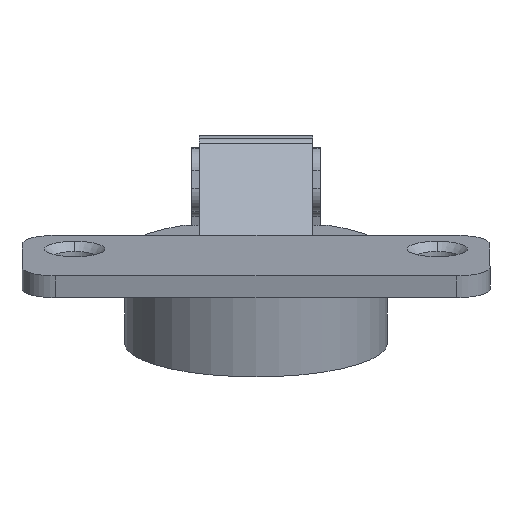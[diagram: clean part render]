
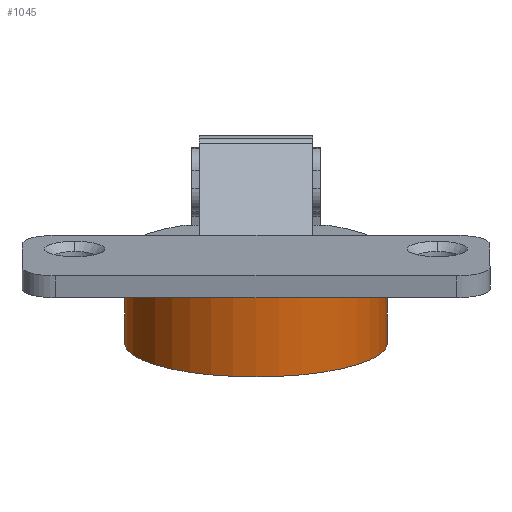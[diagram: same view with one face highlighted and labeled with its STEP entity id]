
A CAD part, top view. The second image highlights one B-rep face of the part: STEP entity #1045.
In plain terms, the highlighted cylindrical face has radius 17.4 mm (diameter 34.8 mm), a partial arc.
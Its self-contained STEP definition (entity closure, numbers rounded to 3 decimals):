
#105 = CARTESIAN_POINT ( 'NONE',  ( -17.4, -6.357, 60.715 ) ) ;
#175 = CIRCLE ( 'NONE', #2566, 17.4 ) ;
#178 = VECTOR ( 'NONE', #841, 1000. ) ;
#195 = DIRECTION ( 'NONE',  ( 0., -0.966, -0.257 ) ) ;
#273 = ORIENTED_EDGE ( 'NONE', *, *, #1408, .T. ) ;
#377 = EDGE_CURVE ( 'NONE', #1412, #1732, #2471, .T. ) ;
#389 = CARTESIAN_POINT ( 'NONE',  ( 0., -6.454, 60.689 ) ) ;
#414 = DIRECTION ( 'NONE',  ( 0., 0.966, 0.257 ) ) ;
#415 = ORIENTED_EDGE ( 'NONE', *, *, #2244, .F. ) ;
#450 = CARTESIAN_POINT ( 'NONE',  ( -17.4, 4.757, 63.67 ) ) ;
#728 = LINE ( 'NONE', #2584, #2572 ) ;
#841 = DIRECTION ( 'NONE',  ( 0., 0.966, 0.257 ) ) ;
#1041 = EDGE_CURVE ( 'NONE', #1138, #2034, #175, .T. ) ;
#1045 = ADVANCED_FACE ( 'NONE', ( #2523 ), #1363, .T. ) ;
#1111 = CARTESIAN_POINT ( 'NONE',  ( 0., 4.757, 63.67 ) ) ;
#1138 = VERTEX_POINT ( 'NONE', #450 ) ;
#1310 = CARTESIAN_POINT ( 'NONE',  ( 0., -6.357, 60.715 ) ) ;
#1341 = DIRECTION ( 'NONE',  ( 0., 0.966, 0.257 ) ) ;
#1363 = CYLINDRICAL_SURFACE ( 'NONE', #1729, 17.4 ) ;
#1408 = EDGE_CURVE ( 'NONE', #1412, #2034, #2519, .T. ) ;
#1412 = VERTEX_POINT ( 'NONE', #3010 ) ;
#1527 = EDGE_LOOP ( 'NONE', ( #2745, #273, #1923, #415 ) ) ;
#1572 = DIRECTION ( 'NONE',  ( -1., 0., 0. ) ) ;
#1669 = AXIS2_PLACEMENT_3D ( 'NONE', #1310, #195, #2261 ) ;
#1729 = AXIS2_PLACEMENT_3D ( 'NONE', #389, #1341, #2291 ) ;
#1732 = VERTEX_POINT ( 'NONE', #105 ) ;
#1886 = DIRECTION ( 'NONE',  ( 0., 0.966, 0.257 ) ) ;
#1923 = ORIENTED_EDGE ( 'NONE', *, *, #1041, .F. ) ;
#2034 = VERTEX_POINT ( 'NONE', #2302 ) ;
#2065 = CARTESIAN_POINT ( 'NONE',  ( 17.4, -6.454, 60.689 ) ) ;
#2244 = EDGE_CURVE ( 'NONE', #1732, #1138, #728, .T. ) ;
#2261 = DIRECTION ( 'NONE',  ( 1., 0., 0. ) ) ;
#2291 = DIRECTION ( 'NONE',  ( -1., 0., 0. ) ) ;
#2302 = CARTESIAN_POINT ( 'NONE',  ( 17.4, 4.757, 63.67 ) ) ;
#2471 = CIRCLE ( 'NONE', #1669, 17.4 ) ;
#2519 = LINE ( 'NONE', #2065, #178 ) ;
#2523 = FACE_OUTER_BOUND ( 'NONE', #1527, .T. ) ;
#2566 = AXIS2_PLACEMENT_3D ( 'NONE', #1111, #414, #1572 ) ;
#2572 = VECTOR ( 'NONE', #1886, 1000. ) ;
#2584 = CARTESIAN_POINT ( 'NONE',  ( -17.4, -6.454, 60.689 ) ) ;
#2745 = ORIENTED_EDGE ( 'NONE', *, *, #377, .F. ) ;
#3010 = CARTESIAN_POINT ( 'NONE',  ( 17.4, -6.357, 60.715 ) ) ;
